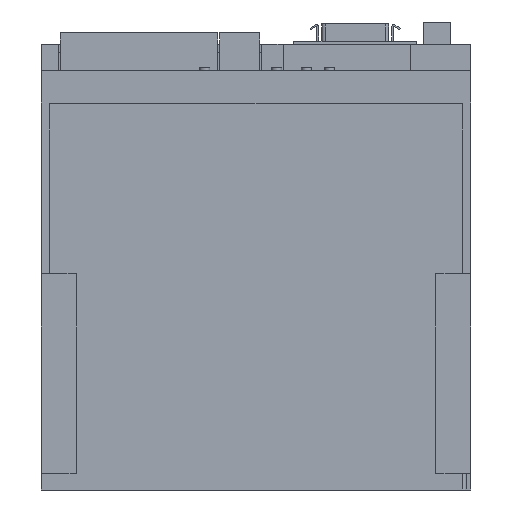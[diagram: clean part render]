
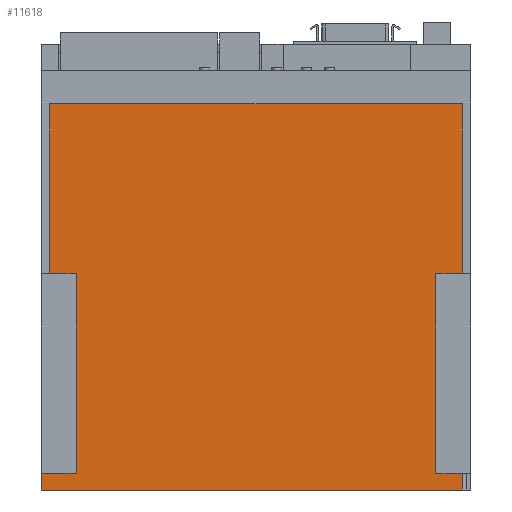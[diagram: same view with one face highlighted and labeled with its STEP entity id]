
A CAD part, left-side view. The second image highlights one B-rep face of the part: STEP entity #11618.
In plain terms, the highlighted planar face has unit normal (-1, 0, 0).
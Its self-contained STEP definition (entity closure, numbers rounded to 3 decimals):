
#659 = VERTEX_POINT ( 'NONE', #1769 ) ;
#667 = EDGE_CURVE ( 'NONE', #669, #659, #1825, .T. ) ;
#669 = VERTEX_POINT ( 'NONE', #1821 ) ;
#674 = VERTEX_POINT ( 'NONE', #1814 ) ;
#676 = EDGE_CURVE ( 'NONE', #659, #674, #1813, .T. ) ;
#702 = VERTEX_POINT ( 'NONE', #1835 ) ;
#1769 = CARTESIAN_POINT ( 'NONE',  ( -20., 54.5, 65.5 ) ) ;
#1810 = DIRECTION ( 'NONE',  ( 0., 0., -1. ) ) ;
#1811 = VECTOR ( 'NONE', #1810, 1000. ) ;
#1812 = CARTESIAN_POINT ( 'NONE',  ( -20., 54.5, 0. ) ) ;
#1813 = LINE ( 'NONE', #1812, #1811 ) ;
#1814 = CARTESIAN_POINT ( 'NONE',  ( -20., 54.5, 5. ) ) ;
#1821 = CARTESIAN_POINT ( 'NONE',  ( -20., 62.5, 65.5 ) ) ;
#1822 = DIRECTION ( 'NONE',  ( 0., -1., 0. ) ) ;
#1823 = VECTOR ( 'NONE', #1822, 1000. ) ;
#1824 = CARTESIAN_POINT ( 'NONE',  ( -20., 65., 65.5 ) ) ;
#1825 = LINE ( 'NONE', #1824, #1823 ) ;
#1835 = CARTESIAN_POINT ( 'NONE',  ( -20., 65., 5. ) ) ;
#4985 = DIRECTION ( 'NONE',  ( 0., 1., 0. ) ) ;
#4986 = VECTOR ( 'NONE', #4985, 1000. ) ;
#4987 = CARTESIAN_POINT ( 'NONE',  ( -20., 65., 5. ) ) ;
#4988 = LINE ( 'NONE', #4987, #4986 ) ;
#5379 = CARTESIAN_POINT ( 'NONE',  ( -20., -54.5, 65.5 ) ) ;
#5413 = LINE ( 'NONE', #5477, #5476 ) ;
#5424 = DIRECTION ( 'NONE',  ( 0., 1., 0. ) ) ;
#5425 = VECTOR ( 'NONE', #5424, 1000. ) ;
#5426 = CARTESIAN_POINT ( 'NONE',  ( -20., 65., 5. ) ) ;
#5427 = LINE ( 'NONE', #5426, #5425 ) ;
#5451 = CARTESIAN_POINT ( 'NONE',  ( -20., 65., 0. ) ) ;
#5456 = DIRECTION ( 'NONE',  ( 0., 0., -1. ) ) ;
#5457 = VECTOR ( 'NONE', #5456, 1000. ) ;
#5458 = CARTESIAN_POINT ( 'NONE',  ( -20., 65., 0. ) ) ;
#5459 = LINE ( 'NONE', #5458, #5457 ) ;
#5460 = DIRECTION ( 'NONE',  ( 0., -1., 0. ) ) ;
#5461 = VECTOR ( 'NONE', #5460, 1000. ) ;
#5462 = CARTESIAN_POINT ( 'NONE',  ( -20., 65., 65.5 ) ) ;
#5463 = LINE ( 'NONE', #5462, #5461 ) ;
#5464 = CARTESIAN_POINT ( 'NONE',  ( -20., -62.5, 65.5 ) ) ;
#5475 = DIRECTION ( 'NONE',  ( 0., 0., 1. ) ) ;
#5476 = VECTOR ( 'NONE', #5475, 1000. ) ;
#5477 = CARTESIAN_POINT ( 'NONE',  ( -20., -54.5, 0. ) ) ;
#5478 = CARTESIAN_POINT ( 'NONE',  ( -20., -62.5, 117. ) ) ;
#5483 = CARTESIAN_POINT ( 'NONE',  ( -20., -62.5, 0. ) ) ;
#5506 = CARTESIAN_POINT ( 'NONE',  ( -20., -54.5, 5. ) ) ;
#5536 = DIRECTION ( 'NONE',  ( 0., 0., 1. ) ) ;
#5537 = VECTOR ( 'NONE', #5536, 1000. ) ;
#5538 = CARTESIAN_POINT ( 'NONE',  ( -20., -62.5, 0. ) ) ;
#5539 = LINE ( 'NONE', #5538, #5537 ) ;
#5546 = DIRECTION ( 'NONE',  ( 0., -1., 0. ) ) ;
#5547 = VECTOR ( 'NONE', #5546, 1000. ) ;
#5548 = CARTESIAN_POINT ( 'NONE',  ( -20., 65., 0. ) ) ;
#5549 = LINE ( 'NONE', #5548, #5547 ) ;
#5563 = CARTESIAN_POINT ( 'NONE',  ( -20., -62.5, 5. ) ) ;
#5568 = DIRECTION ( 'NONE',  ( 0., 0., 1. ) ) ;
#5569 = VECTOR ( 'NONE', #5568, 1000. ) ;
#5570 = CARTESIAN_POINT ( 'NONE',  ( -20., -62.5, 0. ) ) ;
#5571 = LINE ( 'NONE', #5570, #5569 ) ;
#5999 = DIRECTION ( 'NONE',  ( 0., 0., 1. ) ) ;
#6000 = DIRECTION ( 'NONE',  ( -1., 0., 0. ) ) ;
#6001 = CARTESIAN_POINT ( 'NONE',  ( -20., 65., 0. ) ) ;
#6002 = AXIS2_PLACEMENT_3D ( 'NONE', #6001, #6000, #5999 ) ;
#6003 = PLANE ( 'NONE',  #6002 ) ;
#6004 = FACE_OUTER_BOUND ( 'NONE', #11606, .T. ) ;
#6011 = CARTESIAN_POINT ( 'NONE',  ( -20., 62.5, 117. ) ) ;
#6012 = DIRECTION ( 'NONE',  ( 0., 1., 0. ) ) ;
#6013 = VECTOR ( 'NONE', #6012, 1000. ) ;
#6014 = CARTESIAN_POINT ( 'NONE',  ( -20., 65., 117. ) ) ;
#6015 = LINE ( 'NONE', #6014, #6013 ) ;
#7112 = DIRECTION ( 'NONE',  ( 0., 0., -1. ) ) ;
#7113 = VECTOR ( 'NONE', #7112, 1000. ) ;
#7114 = CARTESIAN_POINT ( 'NONE',  ( -20., 62.5, 0. ) ) ;
#7115 = LINE ( 'NONE', #7114, #7113 ) ;
#10972 = EDGE_CURVE ( 'NONE', #674, #702, #4988, .T. ) ;
#11230 = VERTEX_POINT ( 'NONE', #5379 ) ;
#11239 = EDGE_CURVE ( 'NONE', #11317, #11271, #5427, .T. ) ;
#11250 = EDGE_CURVE ( 'NONE', #11271, #11230, #5413, .T. ) ;
#11260 = VERTEX_POINT ( 'NONE', #5464 ) ;
#11261 = EDGE_CURVE ( 'NONE', #11230, #11260, #5463, .T. ) ;
#11265 = EDGE_CURVE ( 'NONE', #702, #11267, #5459, .T. ) ;
#11267 = VERTEX_POINT ( 'NONE', #5451 ) ;
#11271 = VERTEX_POINT ( 'NONE', #5506 ) ;
#11288 = VERTEX_POINT ( 'NONE', #5483 ) ;
#11290 = VERTEX_POINT ( 'NONE', #5478 ) ;
#11291 = EDGE_CURVE ( 'NONE', #11260, #11290, #5539, .T. ) ;
#11313 = EDGE_CURVE ( 'NONE', #11288, #11317, #5571, .T. ) ;
#11317 = VERTEX_POINT ( 'NONE', #5563 ) ;
#11329 = EDGE_CURVE ( 'NONE', #11267, #11288, #5549, .T. ) ;
#11606 = EDGE_LOOP ( 'NONE', ( #11607, #12253, #12271, #12277, #12274, #12276, #12259, #12260, #12264, #12240, #12239, #12246 ) ) ;
#11607 = ORIENTED_EDGE ( 'NONE', *, *, #11609, .T. ) ;
#11609 = EDGE_CURVE ( 'NONE', #11290, #11610, #6015, .T. ) ;
#11610 = VERTEX_POINT ( 'NONE', #6011 ) ;
#11618 = ADVANCED_FACE ( 'NONE', ( #6004 ), #6003, .T. ) ;
#12239 = ORIENTED_EDGE ( 'NONE', *, *, #11261, .T. ) ;
#12240 = ORIENTED_EDGE ( 'NONE', *, *, #11250, .T. ) ;
#12246 = ORIENTED_EDGE ( 'NONE', *, *, #11291, .T. ) ;
#12253 = ORIENTED_EDGE ( 'NONE', *, *, #12273, .T. ) ;
#12259 = ORIENTED_EDGE ( 'NONE', *, *, #11329, .T. ) ;
#12260 = ORIENTED_EDGE ( 'NONE', *, *, #11313, .T. ) ;
#12264 = ORIENTED_EDGE ( 'NONE', *, *, #11239, .T. ) ;
#12271 = ORIENTED_EDGE ( 'NONE', *, *, #667, .T. ) ;
#12273 = EDGE_CURVE ( 'NONE', #11610, #669, #7115, .T. ) ;
#12274 = ORIENTED_EDGE ( 'NONE', *, *, #10972, .T. ) ;
#12276 = ORIENTED_EDGE ( 'NONE', *, *, #11265, .T. ) ;
#12277 = ORIENTED_EDGE ( 'NONE', *, *, #676, .T. ) ;
